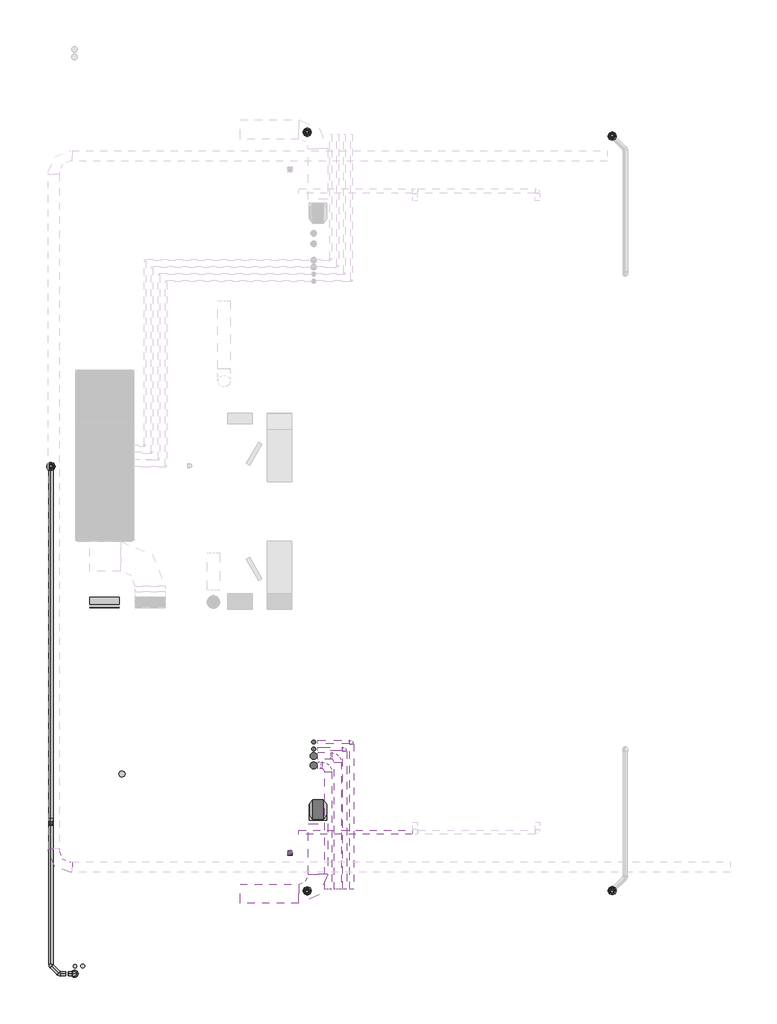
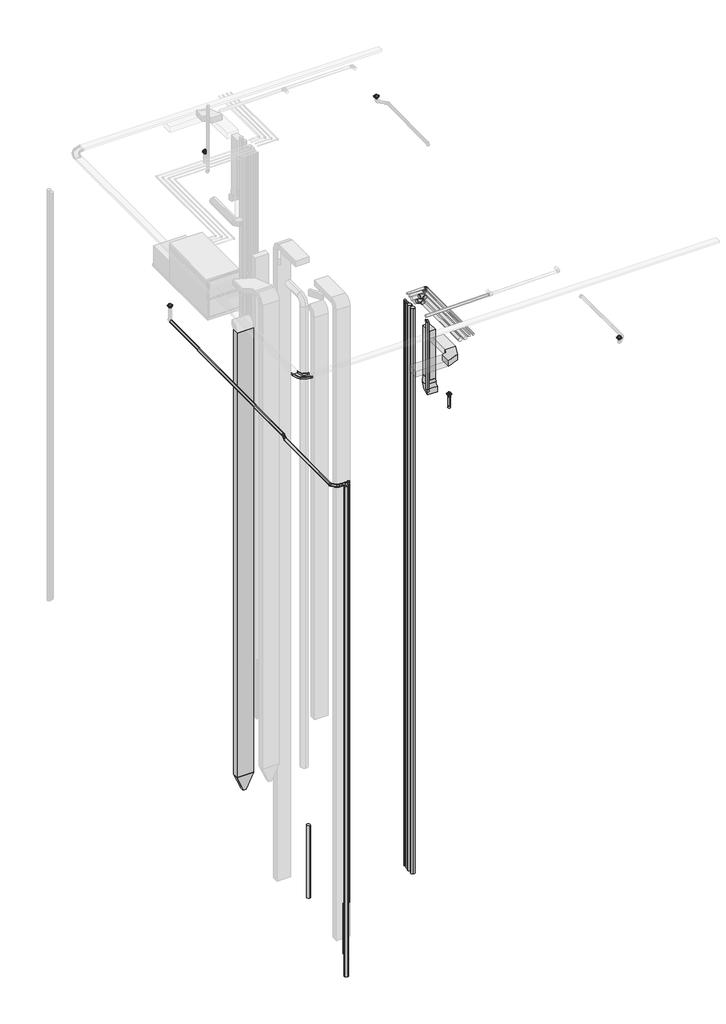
# One storey, part 1 of 3: 25 pipe segments, 14 pipe fittings, 5 duct segments, 5 flow terminals, 4 duct fittings, 1 cable carrier fitting.
"""IFC4 building model written with IfcOpenShell, lengths in millimetres."""

from ifc_helpers import new_model, si_unit, point, frame, frame_2d, origin, place, context, project, spatial, polyline, circle_curve, trimmed, segment, composite_curve, outline, extrude, transform, mapped, element, save
from ifc_brep_helpers import plane_surface, cylinder_surface, advanced_brep
from components import m_codo_horizontal_de_canal_el_5b0e7b07, duct_fitting_474c0b11, duct_fitting_ae5bc20a, m_codo_rectangular_radio_ext_1_w_5d3c8198, m_codo_rectangular_radio_ext_1_w_5d442bab, flow_terminal_39898e6f, flow_terminal_561f22d3, pipe_fitting_4aa6ec84, pipe_fitting_8e92d537, pipe_fitting_b994c117, pipe_fitting_1b8f7a22, pipe_fitting_ed13619d, pipe_fitting_5f63dbb8, pipe_fitting_71e73916, pipe_fitting_90c71d7b, pipe_fitting_3b77712d, pipe_fitting_2358b14d, pipe_fitting_de21bee5

model = new_model("IFC4")

# Units and contexts
model_context = context("Model", 3, world=origin())
ifc_project = project(units=[si_unit("LENGTHUNIT", "METRE", prefix="MILLI")], contexts=[model_context])

# Site, building, storey
site = spatial("IfcSite", under=ifc_project)
building = spatial("IfcBuilding", under=site)
storey = spatial("IfcBuildingStorey", under=building, Name="Nivell 07 P07_PP", Elevation=33660.0)

# Cable carrier fitting
placement = place(None, origin())
m_codo_horizontal_de_canal_el_shape = m_codo_horizontal_de_canal_el_5b0e7b07(model_context)
element("IfcCableCarrierFitting", 1, ObjectType="M_Codo horizontal de canal : SF", at=placement, inside=storey, context=model_context, shape_type="MappedRepresentation", body=[
    mapped(m_codo_horizontal_de_canal_el_shape, transform((6393.9309106, -14645.0574459, 37010.0), x_axis=(0.0, -1.0, 0.0), y_axis=(1.0, 0.0, 0.0), z_axis=(0.0, 0.0, 1.0))),
])

# Duct fittings
duct_fitting_shape = duct_fitting_474c0b11(model_context)
element("IfcDuctFitting", 2, ObjectType="M_Transición rectangular - Ángulo : EXT_45 graus", at=placement, inside=storey, context=model_context, shape_type="MappedRepresentation", body=[
    mapped(duct_fitting_shape, transform((13940.4053207, -13001.757421, 33511.7766953), x_axis=(0.0, 0.0, -1.0), y_axis=(0.0, 1.0, 0.0), z_axis=(1.0, 0.0, 0.0))),
])
duct_fitting_2_shape = duct_fitting_ae5bc20a(model_context)
element("IfcDuctFitting", 3, ObjectType="M_Transición rectangular - Ángulo : APT_45 graus", at=placement, inside=storey, context=model_context, shape_type="MappedRepresentation", body=[
    mapped(duct_fitting_2_shape, transform((7843.1770275, -7084.7057708, 9718.0252532), x_axis=(0.0, 0.0, 1.0), y_axis=(0.0, -1.0, 0.0), z_axis=(1.0, 0.0, 0.0))),
])
m_codo_rectangular_radio_ext_1_w_shape = m_codo_rectangular_radio_ext_1_w_5d3c8198(model_context)
element("IfcDuctFitting", 4, ObjectType="M_Codo rectangular - Radio : EXT_1 W", at=placement, inside=storey, context=model_context, shape_type="MappedRepresentation", body=[
    mapped(m_codo_rectangular_radio_ext_1_w_shape, transform((13940.4053207, -13001.757421, 32910.0), x_axis=(0.0, 0.0, -1.0), y_axis=(0.0, -1.0, 0.0), z_axis=(-1.0, 0.0, 0.0))),
])
m_codo_rectangular_radio_ext_1_w_2_shape = m_codo_rectangular_radio_ext_1_w_5d442bab(model_context)
element("IfcDuctFitting", 5, ObjectType="M_Codo rectangular - Radio : EXT_1 W", at=placement, inside=storey, context=model_context, shape_type="MappedRepresentation", body=[
    mapped(m_codo_rectangular_radio_ext_1_w_2_shape, transform((13940.4053207, -15404.4001617, 36010.0), x_axis=(0.0, -1.0, 0.0), y_axis=(1.0, 0.0, 0.0), z_axis=(0.0, 0.0, 1.0))),
])

# Duct segments
element("IfcDuctSegment", 6, ObjectType="APT_Planxa galvanitzada", at=placement, inside=storey, context=model_context, shape_type="SweptSolid", body=[
    extrude(outline(polyline([(-425.0, 300.6939094), (-425.0, 600.6939094), (425.0, 600.6939094), (425.0, 300.6939094), (-425.0, 300.6939094)])), frame((7843.1770275, -7535.3996802, 10563.000166), z_axis=(-1.1309244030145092e-06, 3.6841681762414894e-07, 0.9999999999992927), x_axis=(0.9999999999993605, 0.0, 1.1309244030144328e-06)), (0.0, 0.0, 1.0), 24060.0),
])
element("IfcDuctSegment", 7, ObjectType="EXT_Acer Galvanitzat - Rígid", at=placement, inside=storey, context=model_context, shape_type="SweptSolid", body=[
    extrude(outline(composite_curve([segment(trimmed(circle_curve(frame_2d((8341.1206995, -11984.7059364)), 87.5), [point((8341.1206995, -11897.2059364))], [point((8428.6206995, -11984.7059364))], False, "CARTESIAN"), True, "CONTINUOUS"), segment(trimmed(circle_curve(frame_2d((8341.1206995, -11984.7059364)), 87.5), [point((8428.6206995, -11984.7059364))], [point((8341.1206995, -12072.2059364))], False, "CARTESIAN"), True, "CONTINUOUS"), segment(trimmed(circle_curve(frame_2d((8341.1206995, -11984.7059364)), 87.5), [point((8341.1206995, -12072.2059364))], [point((8253.6206995, -11984.7059364))], False, "CARTESIAN"), True, "CONTINUOUS"), segment(trimmed(circle_curve(frame_2d((8341.1206995, -11984.7059364)), 87.5), [point((8253.6206995, -11984.7059364))], [point((8341.1206995, -11897.2059364))], False, "CARTESIAN"), True, "CONTINUOUS")], self_intersect=False)), frame((0.0, 0.0, 6637.5), z_axis=(0.0, 0.0, 1.0), x_axis=(1.0, 0.0, 0.0)), (0.0, 0.0, 1.0), 3930.0),
])
element("IfcDuctSegment", 8, ObjectType="EXT_Planxa galvanitzada", at=placement, inside=storey, context=model_context, shape_type="SweptSolid", body=[
    extrude(outline(polyline([(13790.4053207, -13276.757421), (13790.4053207, -12726.757421), (14090.4053207, -12726.757421), (14090.4053207, -13276.757421), (13790.4053207, -13276.757421)])), frame((0.0, 0.0, 33511.7766953), z_axis=(0.0, 0.0, 1.0), x_axis=(1.0, 0.0, 0.0)), (0.0, 0.0, 1.0), 2648.2233047),
])
element("IfcDuctSegment", 9, ObjectType="EXT_Planxa galvanitzada", at=placement, inside=storey, context=model_context, shape_type="SweptSolid", body=[
    extrude(outline(polyline([(13665.4053207, -13404.4001617), (14215.4053207, -13404.4001617), (14215.4053207, -14854.4001617), (13665.4053207, -14854.4001617), (13665.4053207, -13404.4001617)])), frame((0.0, 0.0, 35860.0), z_axis=(0.0, 0.0, 1.0), x_axis=(1.0, 0.0, 0.0)), (0.0, 0.0, 1.0), 300.0),
])
element("IfcDuctSegment", 10, ObjectType="EXT_Planxa galvanitzada", at=placement, inside=storey, context=model_context, shape_type="SweptSolid", body=[
    extrude(outline(polyline([(13390.4053207, -15129.4001617), (13390.4053207, -15679.4001617), (11715.0788372, -15679.4001617), (11715.0788372, -15129.4001617), (13390.4053207, -15129.4001617)])), frame((0.0, 0.0, 35860.0), z_axis=(0.0, 0.0, 1.0), x_axis=(1.0, 0.0, 0.0)), (0.0, 0.0, 1.0), 300.0),
])

# Flow terminals
flow_terminal_shape = flow_terminal_39898e6f(model_context)
element("IfcFlowTerminal", 11, ObjectType="ARC_PF_desaigua coberta : Diámetro salida 70mm", at=placement, inside=storey, context=model_context, shape_type="MappedRepresentation", body=[
    mapped(flow_terminal_shape, transform((22335.1113697, 6224.9840671, 33958.0), x_axis=(1.0, 0.0, 0.0), y_axis=(0.0, 1.0, 0.0), z_axis=(0.0, 0.0, 1.0))),
])
element("IfcFlowTerminal", 12, ObjectType="ARC_PF_desaigua coberta : Diámetro salida 70mm", at=placement, inside=storey, context=model_context, shape_type="MappedRepresentation", body=[
    mapped(flow_terminal_shape, transform((6311.3052356, -3209.6948306, 33958.0), x_axis=(1.0, 0.0, 0.0), y_axis=(0.0, 1.0, 0.0), z_axis=(0.0, 0.0, 1.0))),
])
element("IfcFlowTerminal", 13, ObjectType="ARC_PF_desaigua coberta : Diámetro salida 70mm", at=placement, inside=storey, context=model_context, shape_type="MappedRepresentation", body=[
    mapped(flow_terminal_shape, transform((13625.7760967, 6334.0550098, 33958.0), x_axis=(1.0, 0.0, 0.0), y_axis=(0.0, 1.0, 0.0), z_axis=(0.0, 0.0, 1.0))),
])
flow_terminal_2_shape = flow_terminal_561f22d3(model_context)
element("IfcFlowTerminal", 14, ObjectType="ARC_PF_desaigua coberta : Diámetro salida 70mm", at=placement, inside=storey, context=model_context, shape_type="MappedRepresentation", body=[
    mapped(flow_terminal_2_shape, transform((22333.2077868, -15317.2686386, 33958.0), x_axis=(1.0, 0.0, 0.0), y_axis=(0.0, 1.0, 0.0), z_axis=(0.0, 0.0, 1.0))),
])
element("IfcFlowTerminal", 15, ObjectType="ARC_PF_desaigua coberta : Diámetro salida 70mm", at=placement, inside=storey, context=model_context, shape_type="MappedRepresentation", body=[
    mapped(flow_terminal_2_shape, transform((13626.9908986, -15325.0719365, 33958.0), x_axis=(1.0, 0.0, 0.0), y_axis=(0.0, 1.0, 0.0), z_axis=(0.0, 0.0, 1.0))),
])

# Pipe fittings
pipe_fitting_shape = pipe_fitting_4aa6ec84(model_context)
element("IfcPipeFitting", 16, ObjectType="M_Transición - Genérica : Estándar", at=placement, inside=storey, context=model_context, shape_type="MappedRepresentation", body=[
    mapped(pipe_fitting_shape, transform((13626.9908986, -15325.0719365, 33958.0), x_axis=(0.0, 0.0, -1.0), y_axis=(1.0, 0.0, 0.0), z_axis=(0.0, -1.0, 0.0))),
])
pipe_fitting_2_shape = pipe_fitting_8e92d537(model_context)
element("IfcPipeFitting", 17, ObjectType="M_Codo - Genérico : Estándar", at=placement, inside=storey, context=model_context, shape_type="MappedRepresentation", body=[
    mapped(pipe_fitting_2_shape, transform((13626.9908986, -15325.0719365, 33391.2417936), x_axis=(0.0, 0.0, -1.0), y_axis=(-0.7069328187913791, -0.7072807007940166, 0.0), z_axis=(-0.7072807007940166, 0.7069328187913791, 0.0))),
])
element("IfcPipeFitting", 18, ObjectType="M_Codo - Genérico : Estándar", at=placement, inside=storey, context=model_context, shape_type="MappedRepresentation", body=[
    mapped(pipe_fitting_2_shape, transform((6986.7616298, -17691.0727446, 32990.2627563), x_axis=(0.9999500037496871, 0.0, -0.009999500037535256), y_axis=(-0.009999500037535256, 0.0, -0.9999500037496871), z_axis=(0.0, 1.0, 0.0))),
])
pipe_fitting_3_shape = pipe_fitting_b994c117(model_context)
element("IfcPipeFitting", 19, ObjectType="M_Codo - Genérico : Estándar", at=placement, inside=storey, context=model_context, shape_type="MappedRepresentation", body=[
    mapped(pipe_fitting_3_shape, transform((6552.8394718, -17691.0848144, 32995.8090077), x_axis=(0.7070714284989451, -0.7070714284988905, -0.00999950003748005), y_axis=(0.707071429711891, 0.7071300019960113, -0.004141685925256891), z_axis=(0.009999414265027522, -0.004141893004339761, 0.9999414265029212))),
])
pipe_fitting_4_shape = pipe_fitting_1b8f7a22(model_context)
element("IfcPipeFitting", 20, ObjectType="M_Codo - Genérico : Estándar", at=placement, inside=storey, context=model_context, shape_type="MappedRepresentation", body=[
    mapped(pipe_fitting_4_shape, transform((13138.8500573, -14229.6699177, 33770.2949425), x_axis=(0.0, 0.0, -1.0), y_axis=(0.0, 1.0, 0.0), z_axis=(1.0, 0.0, 0.0))),
])
pipe_fitting_5_shape = pipe_fitting_ed13619d(model_context)
element("IfcPipeFitting", 21, ObjectType="M_Codo - Genérico : Estándar", at=placement, inside=storey, context=model_context, shape_type="MappedRepresentation", body=[
    mapped(pipe_fitting_5_shape, transform((6311.3196705, -17449.5638, 32999.0175186), x_axis=(1.0136443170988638e-06, -0.9999500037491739, -0.009999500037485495), y_axis=(0.9999914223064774, 4.243048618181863e-05, -0.0041416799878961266), z_axis=(0.004141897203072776, -0.009999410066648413, 0.9999414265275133))),
])
pipe_fitting_6_shape = pipe_fitting_5f63dbb8(model_context)
element("IfcPipeFitting", 22, ObjectType="M_Codo - Genérico : Estándar", at=placement, inside=storey, context=model_context, shape_type="MappedRepresentation", body=[
    mapped(pipe_fitting_6_shape, transform((6311.315581, -13415.3370057, 33039.3597865), x_axis=(-1.0136443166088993e-06, 0.999950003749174, 0.009999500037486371), y_axis=(1.034121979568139e-06, -0.00999950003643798, 0.9999500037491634), z_axis=(0.9999999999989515, 1.023934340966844e-06, -1.0239343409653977e-06))),
])
pipe_fitting_7_shape = pipe_fitting_71e73916(model_context)
element("IfcPipeFitting", 23, ObjectType="M_Codo - Genérico : Estándar", at=placement, inside=storey, context=model_context, shape_type="MappedRepresentation", body=[
    mapped(pipe_fitting_7_shape, transform((6311.3154497, -13285.7671705, 33169.2416195), x_axis=(1.0136443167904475e-06, -0.9999500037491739, -0.009999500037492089), y_axis=(-9.312105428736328e-07, 0.00999950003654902, -0.9999500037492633), z_axis=(0.9999999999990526, 1.0229052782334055e-06, -9.210280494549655e-07))),
])
pipe_fitting_8_shape = pipe_fitting_90c71d7b(model_context)
element("IfcPipeFitting", 24, ObjectType="M_Codo - Genérico : Estándar", at=placement, inside=storey, context=model_context, shape_type="MappedRepresentation", body=[
    mapped(pipe_fitting_8_shape, transform((13138.8500573, -14229.6699177, 37555.5427949), x_axis=(0.0, 0.0, 1.0), y_axis=(-0.9999881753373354, 0.004863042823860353, 0.0), z_axis=(-0.004863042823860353, -0.9999881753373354, 0.0))),
])
pipe_fitting_9_shape = pipe_fitting_3b77712d(model_context)
element("IfcPipeFitting", 25, ObjectType="M_Codo - Genérico : Estándar", at=placement, inside=storey, context=model_context, shape_type="MappedRepresentation", body=[
    mapped(pipe_fitting_9_shape, transform((14899.010018, -11073.2087902, 36805.0), x_axis=(1.0, 0.0, 0.0), y_axis=(0.0, 1.0, 0.0), z_axis=(0.0, 0.0, 1.0))),
])
element("IfcPipeFitting", 26, ObjectType="M_Codo - Genérico : Estándar", at=placement, inside=storey, context=model_context, shape_type="MappedRepresentation", body=[
    mapped(pipe_fitting_9_shape, transform((14699.010018, -11273.2087902, 36805.0), x_axis=(1.0, 0.0, 0.0), y_axis=(0.0, 1.0, 0.0), z_axis=(0.0, 0.0, 1.0))),
])
pipe_fitting_10_shape = pipe_fitting_2358b14d(model_context)
element("IfcPipeFitting", 27, ObjectType="Codo 90º Soldadura a Tope SDR 11 BluePipe : Estándar", at=placement, inside=storey, context=model_context, shape_type="MappedRepresentation", body=[
    mapped(pipe_fitting_10_shape, transform((14229.010018, -11743.2087902, 36760.0), x_axis=(1.0, 0.0, 0.0), y_axis=(0.0, 1.0, 0.0), z_axis=(0.0, 0.0, 1.0))),
])
element("IfcPipeFitting", 28, ObjectType="Codo 90º Soldadura a Tope SDR 11 BluePipe : Estándar", at=placement, inside=storey, context=model_context, shape_type="MappedRepresentation", body=[
    mapped(pipe_fitting_10_shape, transform((14499.010018, -11473.2087902, 36760.0), x_axis=(1.0, 0.0, 0.0), y_axis=(0.0, 1.0, 0.0), z_axis=(0.0, 0.0, 1.0))),
])
pipe_fitting_11_shape = pipe_fitting_de21bee5(model_context)
element("IfcPipeFitting", 29, ObjectType="M_Transición - Genérica : Estándar", at=placement, inside=storey, context=model_context, shape_type="MappedRepresentation", body=[
    mapped(pipe_fitting_11_shape, transform((6986.7616298, -17691.0727446, 32919.5360595), x_axis=(0.0, 0.0, -1.0), y_axis=(-1.0, 0.0, 0.0), z_axis=(0.0, 1.0, 0.0))),
])

# Pipe segments
element("IfcPipeSegment", 30, ObjectType="PVC_Baixant", at=placement, inside=storey, context=model_context, shape_type="SweptSolid", body=[
    extrude(outline(composite_curve([segment(trimmed(circle_curve(frame_2d((13138.8500573, -14229.6699177)), 62.5), [point((13076.3500573, -14229.6699177))], [point((13138.8500573, -14167.1699177))], False, "CARTESIAN"), True, "CONTINUOUS"), segment(trimmed(circle_curve(frame_2d((13138.8500573, -14229.6699177)), 62.5), [point((13138.8500573, -14167.1699177))], [point((13201.3500573, -14229.6699177))], False, "CARTESIAN"), True, "CONTINUOUS"), segment(trimmed(circle_curve(frame_2d((13138.8500573, -14229.6699177)), 62.5), [point((13201.3500573, -14229.6699177))], [point((13138.8500573, -14292.1699177))], False, "CARTESIAN"), True, "CONTINUOUS"), segment(trimmed(circle_curve(frame_2d((13138.8500573, -14229.6699177)), 62.5), [point((13138.8500573, -14292.1699177))], [point((13076.3500573, -14229.6699177))], False, "CARTESIAN"), True, "CONTINUOUS")], self_intersect=False)), frame((0.0, 0.0, 33841.0216393), z_axis=(0.0, 0.0, 1.0), x_axis=(1.0, 0.0, 0.0)), (0.0, 0.0, 1.0), 3643.7944505),
])
element("IfcPipeSegment", 31, ObjectType="PVC_Baixant", at=placement, inside=storey, context=model_context, shape_type="AdvancedBrep", body=[
    advanced_brep(
    [(16631.3826603, -13586.905026, 37364.678108), (16630.7572476, -13649.405026, 37427.1749788), (16631.3826606, -13711.905026, 37364.678108), (16632.0080732, -13649.405026, 37302.1812372), (13393.894366, -13586.9050333, 37332.2802206), (13394.5197789, -13649.4050333, 37269.7833498), (13393.8943663, -13711.9050333, 37332.2802206), (13393.2689533, -13649.4050333, 37394.7770914)],
    [
        (0, 1, circle_curve(frame((16631.3826603, -13649.405026, 37364.678108), z_axis=(0.9999499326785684, 0.0, 0.010006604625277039), x_axis=(0.0, 1.0, 2.2493936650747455e-11)), 62.5)),
        (1, 2, circle_curve(frame((16631.3826604, -13649.405026, 37364.678108), z_axis=(0.9999499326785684, 0.0, 0.010006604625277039), x_axis=(0.0, 1.0, 2.2493936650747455e-11)), 62.5)),
        (2, 3, circle_curve(frame((16631.3826606, -13649.405026, 37364.678108), z_axis=(0.9999499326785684, 0.0, 0.010006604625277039), x_axis=(0.0, 1.0, 2.2493936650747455e-11)), 62.5)),
        (3, 0, circle_curve(frame((16631.3826604, -13649.405026, 37364.678108), z_axis=(0.9999499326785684, 0.0, 0.010006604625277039), x_axis=(0.0, 1.0, 2.2493936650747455e-11)), 62.5)),
        (4, 5, circle_curve(frame((13393.894366, -13649.405026, 37332.2802206), z_axis=(-0.9999499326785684, 0.0, -0.010006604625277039), x_axis=(0.0, 1.0, 2.2493936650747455e-11)), 62.4999927)),
        (5, 6, circle_curve(frame((13393.8943661, -13649.405026, 37332.2802206), z_axis=(-0.9999499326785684, 0.0, -0.010006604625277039), x_axis=(0.0, 1.0, 2.2493936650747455e-11)), 62.5)),
        (6, 7, circle_curve(frame((13393.8943663, -13649.405026, 37332.2802206), z_axis=(-0.9999499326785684, 0.0, -0.010006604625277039), x_axis=(0.0, 1.0, 2.2493936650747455e-11)), 62.5000073)),
        (7, 4, circle_curve(frame((13393.8943661, -13649.405026, 37332.2802206), z_axis=(-0.9999499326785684, 0.0, -0.010006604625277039), x_axis=(0.0, 1.0, 2.2493936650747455e-11)), 62.5)),
        (0, 4),
        (7, 1),
        (6, 2),
        (5, 3),
    ],
    [
        plane_surface(frame((16631.3826604, -13586.905026, 37364.678094), z_axis=(0.9999499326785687, 2.247909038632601e-09, 0.010006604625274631), x_axis=(0.010006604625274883, -2.2463128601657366e-07, -0.9999499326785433))),
        plane_surface(frame((13393.8943661, -13586.9050333, 37332.2802066), z_axis=(-0.9999499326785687, -2.247909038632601e-09, -0.010006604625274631), x_axis=(0.010006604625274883, -2.2463128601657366e-07, -0.9999499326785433))),
        cylinder_surface(frame((16631.3826604, -13649.405026, 37364.678108), z_axis=(0.9999499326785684, 0.0, 0.010006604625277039), x_axis=(0.0, 1.0, 2.2493936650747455e-11)), 62.5),
    ],
    [
        (0, [[1, 2, 3, 4]]),
        (1, [[5, 6, 7, 8]]),
        (2, [[-1, 9, -8, 10]]),
        (2, [[-2, -10, -7, 11]]),
        (2, [[-3, -11, -6, 12]]),
        (2, [[-4, -12, -5, -9]]),
    ],
),
])
element("IfcPipeSegment", 32, ObjectType="PVC_Baixant", at=placement, inside=storey, context=model_context, shape_type="SweptSolid", body=[
    extrude(outline(composite_curve([segment(trimmed(circle_curve(frame_2d((13626.9908986, -15325.0719365)), 62.5), [point((13689.4908986, -15325.0719365))], [point((13626.9908986, -15387.5719365))], False, "CARTESIAN"), True, "CONTINUOUS"), segment(trimmed(circle_curve(frame_2d((13626.9908986, -15325.0719365)), 62.5), [point((13626.9908986, -15387.5719365))], [point((13564.4908986, -15325.0719365))], False, "CARTESIAN"), True, "CONTINUOUS"), segment(trimmed(circle_curve(frame_2d((13626.9908986, -15325.0719365)), 62.5), [point((13564.4908986, -15325.0719365))], [point((13626.9908986, -15262.5719365))], False, "CARTESIAN"), True, "CONTINUOUS"), segment(trimmed(circle_curve(frame_2d((13626.9908986, -15325.0719365)), 62.5), [point((13626.9908986, -15262.5719365))], [point((13689.4908986, -15325.0719365))], False, "CARTESIAN"), True, "CONTINUOUS")], self_intersect=False)), frame((0.0, 0.0, 33461.9684904), z_axis=(0.0, 0.0, 1.0), x_axis=(1.0, 0.0, 0.0)), (0.0, 0.0, 1.0), 463.4877596),
])
element("IfcPipeSegment", 33, ObjectType="PVC_Baixant", at=placement, inside=storey, context=model_context, shape_type="SweptSolid", body=[
    extrude(outline(composite_curve([segment(trimmed(circle_curve(frame_2d((0.0, -62.5)), 62.5), [point((-62.5, -62.5000006))], [point((-7e-07, 0.0))], False, "CARTESIAN"), True, "CONTINUOUS"), segment(trimmed(circle_curve(frame_2d((0.0, -62.5)), 62.5), [point((-7e-07, 0.0))], [point((62.5, -62.4999993))], False, "CARTESIAN"), True, "CONTINUOUS"), segment(trimmed(circle_curve(frame_2d((0.0, -62.5)), 62.5), [point((62.5, -62.4999993))], [point((6e-07, -125.0))], False, "CARTESIAN"), True, "CONTINUOUS"), segment(trimmed(circle_curve(frame_2d((0.0, -62.5)), 62.5), [point((6e-07, -125.0))], [point((-62.5, -62.5000006))], False, "CARTESIAN"), True, "CONTINUOUS")], self_intersect=False)), frame((6311.3154179, -13253.7647773, 33107.0585185), z_axis=(-1.01364431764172e-06, 0.999950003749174, 0.009999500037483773), x_axis=(0.9999999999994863, 1.0135936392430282e-06, 1.013593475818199e-08)), (0.0, 0.0, 1.0), 9967.4096377),
])
element("IfcPipeSegment", 34, ObjectType="PVC_Baixant", at=placement, inside=storey, context=model_context, shape_type="SweptSolid", body=[
    extrude(outline(composite_curve([segment(trimmed(circle_curve(frame_2d((0.0, -62.5)), 62.5), [point((-62.4968756, -63.1249375))], [point((-0.6249376, -0.0031245))], False, "CARTESIAN"), True, "CONTINUOUS"), segment(trimmed(circle_curve(frame_2d((0.0, -62.5)), 62.5), [point((-0.6249376, -0.0031245))], [point((62.4968755, -61.8750625))], False, "CARTESIAN"), True, "CONTINUOUS"), segment(trimmed(circle_curve(frame_2d((0.0, -62.5)), 62.5), [point((62.4968755, -61.8750625))], [point((0.6249374, -124.9968755))], False, "CARTESIAN"), True, "CONTINUOUS"), segment(trimmed(circle_curve(frame_2d((0.0, -62.5)), 62.5), [point((0.6249374, -124.9968755))], [point((-62.4968756, -63.1249375))], False, "CARTESIAN"), True, "CONTINUOUS")], self_intersect=False)), frame((6531.9173263, -17669.2776607, 32933.4040457), z_axis=(-0.7070714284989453, 0.7070714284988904, 0.009999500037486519), x_axis=(0.7071421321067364, 0.7070007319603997, 0.009998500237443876)), (0.0, 0.0, 1.0), 282.3991891),
])
element("IfcPipeSegment", 35, ObjectType="PVC_Baixant", at=placement, inside=storey, context=model_context, shape_type="SweptSolid", body=[
    extrude(outline(composite_curve([segment(trimmed(circle_curve(frame_2d((0.0, -62.5)), 62.5), [point((0.0, -125.0))], [point((-62.5000001, -62.5))], False, "CARTESIAN"), True, "CONTINUOUS"), segment(trimmed(circle_curve(frame_2d((0.0, -62.5)), 62.5), [point((-62.5000001, -62.5))], [point((0.0, 0.0))], False, "CARTESIAN"), True, "CONTINUOUS"), segment(trimmed(circle_curve(frame_2d((0.0, -62.5)), 62.5), [point((0.0, 0.0))], [point((62.5, -62.5))], False, "CARTESIAN"), True, "CONTINUOUS"), segment(trimmed(circle_curve(frame_2d((0.0, -62.5)), 62.5), [point((62.5, -62.5))], [point((0.0, -125.0))], False, "CARTESIAN"), True, "CONTINUOUS")], self_intersect=False)), frame((6916.0384691, -17628.5727446, 32990.9699879), z_axis=(-0.9999500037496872, 0.0, 0.009999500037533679), x_axis=(0.009999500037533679, 0.0, 0.9999500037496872)), (0.0, 0.0, 1.0), 113.1264474),
])
element("IfcPipeSegment", 36, ObjectType="PVC_Baixant", at=placement, inside=storey, context=model_context, shape_type="SweptSolid", body=[
    extrude(outline(composite_curve([segment(trimmed(circle_curve(frame_2d((6986.7616298, -17691.0727446)), 100.0), [point((7086.7616298, -17691.0727446))], [point((6986.7616298, -17791.0727446))], False, "CARTESIAN"), True, "CONTINUOUS"), segment(trimmed(circle_curve(frame_2d((6986.7616298, -17691.0727446)), 100.0), [point((6986.7616298, -17791.0727446))], [point((6886.7616298, -17691.0727446))], False, "CARTESIAN"), True, "CONTINUOUS"), segment(trimmed(circle_curve(frame_2d((6986.7616298, -17691.0727446)), 100.0), [point((6886.7616298, -17691.0727446))], [point((6986.7616298, -17591.0727446))], False, "CARTESIAN"), True, "CONTINUOUS"), segment(trimmed(circle_curve(frame_2d((6986.7616298, -17691.0727446)), 100.0), [point((6986.7616298, -17591.0727446))], [point((7086.7616298, -17691.0727446))], False, "CARTESIAN"), True, "CONTINUOUS")], self_intersect=False)), frame((0.0, 0.0, 6330.0), z_axis=(0.0, 0.0, 1.0), x_axis=(1.0, 0.0, 0.0)), (0.0, 0.0, 1.0), 26537.9423095),
])
element("IfcPipeSegment", 37, ObjectType="PVC_Baixant", at=placement, inside=storey, context=model_context, shape_type="SweptSolid", body=[
    extrude(outline(composite_curve([segment(trimmed(circle_curve(frame_2d((0.0, 62.5000001)), 62.5), [point((62.5, 62.5000007))], [point((6e-07, 0.0))], False, "CARTESIAN"), True, "CONTINUOUS"), segment(trimmed(circle_curve(frame_2d((0.0, 62.5000001)), 62.5), [point((6e-07, 0.0))], [point((-62.5, 62.4999994))], False, "CARTESIAN"), True, "CONTINUOUS"), segment(trimmed(circle_curve(frame_2d((0.0, 62.5000001)), 62.5), [point((-62.5, 62.4999994))], [point((-6e-07, 125.0))], False, "CARTESIAN"), True, "CONTINUOUS"), segment(trimmed(circle_curve(frame_2d((0.0, 62.5000001)), 62.5), [point((-6e-07, 125.0))], [point((62.5, 62.5000007))], False, "CARTESIAN"), True, "CONTINUOUS")], self_intersect=False)), frame((6311.3196405, -17420.6016424, 33061.8102651), z_axis=(-1.01364431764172e-06, 0.999950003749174, 0.009999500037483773), x_axis=(0.9999999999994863, 1.0135936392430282e-06, 1.013593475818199e-08)), (0.0, 0.0, 1.0), 3975.6671094),
])
element("IfcPipeSegment", 38, ObjectType="PVC_Baixant", at=placement, inside=storey, context=model_context, shape_type="SweptSolid", body=[
    extrude(outline(composite_curve([segment(trimmed(circle_curve(frame_2d((0.0, -62.5)), 62.5), [point((-62.5, -62.5))], [point((0.0, 0.0))], False, "CARTESIAN"), True, "CONTINUOUS"), segment(trimmed(circle_curve(frame_2d((0.0, -62.5)), 62.5), [point((0.0, 0.0))], [point((62.5, -62.5))], False, "CARTESIAN"), True, "CONTINUOUS"), segment(trimmed(circle_curve(frame_2d((0.0, -62.5)), 62.5), [point((62.5, -62.5))], [point((0.0, -125.0000001))], False, "CARTESIAN"), True, "CONTINUOUS"), segment(trimmed(circle_curve(frame_2d((0.0, -62.5)), 62.5), [point((0.0, -125.0000001))], [point((-62.5, -62.5))], False, "CARTESIAN"), True, "CONTINUOUS")], self_intersect=False)), frame((6311.315581, -13350.5145574, 33015.7938871), z_axis=(0.0, 0.7071067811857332, 0.7071067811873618), x_axis=(1.0, 0.0, 0.0)), (0.0, 0.0, 1.0), 67.614433),
])
element("IfcPipeSegment", 39, ObjectType="PVC_Baixant", at=placement, inside=storey, context=model_context, shape_type="SweptSolid", body=[
    extrude(outline(composite_curve([segment(trimmed(circle_curve(frame_2d((0.0, -62.5)), 62.5), [point((-62.5, -62.5))], [point((0.0, 0.0))], False, "CARTESIAN"), True, "CONTINUOUS"), segment(trimmed(circle_curve(frame_2d((0.0, -62.5)), 62.5), [point((0.0, 0.0))], [point((62.5, -62.5))], False, "CARTESIAN"), True, "CONTINUOUS"), segment(trimmed(circle_curve(frame_2d((0.0, -62.5)), 62.5), [point((62.5, -62.5))], [point((0.0, -124.9999999))], False, "CARTESIAN"), True, "CONTINUOUS"), segment(trimmed(circle_curve(frame_2d((0.0, -62.5)), 62.5), [point((0.0, -124.9999999))], [point((-62.5, -62.5))], False, "CARTESIAN"), True, "CONTINUOUS")], self_intersect=False)), frame((6311.3154497, -13301.6986864, 33062.5992643), z_axis=(0.0, 0.7071067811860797, 0.7071067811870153), x_axis=(1.0, 0.0, 0.0)), (0.0, 0.0, 1.0), 55.336826),
])
element("IfcPipeSegment", 40, ObjectType="PVC_Baixant", at=placement, inside=storey, context=model_context, shape_type="SweptSolid", body=[
    extrude(outline(composite_curve([segment(trimmed(circle_curve(frame_2d((0.0, -62.5)), 62.5), [point((0.0, -125.0))], [point((-62.5000001, -62.5))], False, "CARTESIAN"), True, "CONTINUOUS"), segment(trimmed(circle_curve(frame_2d((0.0, -62.5)), 62.5), [point((-62.5000001, -62.5))], [point((0.0, 0.0))], False, "CARTESIAN"), True, "CONTINUOUS"), segment(trimmed(circle_curve(frame_2d((0.0, -62.5)), 62.5), [point((0.0, 0.0))], [point((62.5, -62.5))], False, "CARTESIAN"), True, "CONTINUOUS"), segment(trimmed(circle_curve(frame_2d((0.0, -62.5)), 62.5), [point((62.5, -62.5))], [point((0.0, -125.0))], False, "CARTESIAN"), True, "CONTINUOUS")], self_intersect=False)), frame((6737.8455009, -17628.5848144, 32993.9589474), z_axis=(-0.9999500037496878, 0.0, 0.009999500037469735), x_axis=(0.009999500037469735, 0.0, 0.9999500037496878)), (0.0, 0.0, 1.0), 155.426631),
])
element("IfcPipeSegment", 41, ObjectType="PPR_CLI_Aquatherm Blue Pipe", at=placement, inside=storey, context=model_context, shape_type="SweptSolid", body=[
    extrude(outline(composite_curve([segment(trimmed(circle_curve(frame_2d((-11743.2087902, 36760.0)), 100.0), [point((-11643.2087902, 36760.0))], [point((-11743.2087902, 36660.0))], False, "CARTESIAN"), True, "CONTINUOUS"), segment(trimmed(circle_curve(frame_2d((-11743.2087902, 36760.0)), 100.0), [point((-11743.2087902, 36660.0))], [point((-11843.2087902, 36760.0))], False, "CARTESIAN"), True, "CONTINUOUS"), segment(trimmed(circle_curve(frame_2d((-11743.2087902, 36760.0)), 100.0), [point((-11843.2087902, 36760.0))], [point((-11743.2087902, 36860.0))], False, "CARTESIAN"), True, "CONTINUOUS"), segment(trimmed(circle_curve(frame_2d((-11743.2087902, 36760.0)), 100.0), [point((-11743.2087902, 36860.0))], [point((-11643.2087902, 36760.0))], False, "CARTESIAN"), True, "CONTINUOUS")], self_intersect=False)), frame((13929.010018, 0.0, 0.0), z_axis=(1.0, 0.0, 0.0), x_axis=(0.0, 1.0, 0.0)), (0.0, 0.0, 1.0), 125.0),
])
element("IfcPipeSegment", 42, ObjectType="PPR_CLI_Aquatherm Blue Pipe", at=placement, inside=storey, context=model_context, shape_type="SweptSolid", body=[
    extrude(outline(composite_curve([segment(trimmed(circle_curve(frame_2d((36760.0, 14229.010018)), 100.0), [point((36760.0, 14129.010018))], [point((36660.0, 14229.010018))], False, "CARTESIAN"), True, "CONTINUOUS"), segment(trimmed(circle_curve(frame_2d((36760.0, 14229.010018)), 100.0), [point((36660.0, 14229.010018))], [point((36760.0, 14329.010018))], False, "CARTESIAN"), True, "CONTINUOUS"), segment(trimmed(circle_curve(frame_2d((36760.0, 14229.010018)), 100.0), [point((36760.0, 14329.010018))], [point((36860.0, 14229.010018))], False, "CARTESIAN"), True, "CONTINUOUS"), segment(trimmed(circle_curve(frame_2d((36760.0, 14229.010018)), 100.0), [point((36860.0, 14229.010018))], [point((36760.0, 14129.010018))], False, "CARTESIAN"), True, "CONTINUOUS")], self_intersect=False)), frame((0.0, -15273.2087902, 0.0), z_axis=(0.0, 1.0, 0.0), x_axis=(0.0, 0.0, 1.0)), (0.0, 0.0, 1.0), 3355.0),
])
element("IfcPipeSegment", 43, ObjectType="PPR_CLI_Aquatherm Blue Pipe", at=placement, inside=storey, context=model_context, shape_type="SweptSolid", body=[
    extrude(outline(composite_curve([segment(trimmed(circle_curve(frame_2d((36760.0, 14499.010018)), 100.0), [point((36760.0, 14399.010018))], [point((36660.0, 14499.010018))], False, "CARTESIAN"), True, "CONTINUOUS"), segment(trimmed(circle_curve(frame_2d((36760.0, 14499.010018)), 100.0), [point((36660.0, 14499.010018))], [point((36760.0, 14599.010018))], False, "CARTESIAN"), True, "CONTINUOUS"), segment(trimmed(circle_curve(frame_2d((36760.0, 14499.010018)), 100.0), [point((36760.0, 14599.010018))], [point((36860.0, 14499.010018))], False, "CARTESIAN"), True, "CONTINUOUS"), segment(trimmed(circle_curve(frame_2d((36760.0, 14499.010018)), 100.0), [point((36860.0, 14499.010018))], [point((36760.0, 14399.010018))], False, "CARTESIAN"), True, "CONTINUOUS")], self_intersect=False)), frame((0.0, -15273.2087902, 0.0), z_axis=(0.0, 1.0, 0.0), x_axis=(0.0, 0.0, 1.0)), (0.0, 0.0, 1.0), 3625.0),
])
element("IfcPipeSegment", 44, ObjectType="PPR_CLI_Aquatherm Blue Pipe", at=placement, inside=storey, context=model_context, shape_type="SweptSolid", body=[
    extrude(outline(composite_curve([segment(trimmed(circle_curve(frame_2d((36805.0, 14699.010018)), 55.0), [point((36805.0, 14644.010018))], [point((36750.0, 14699.010018))], False, "CARTESIAN"), True, "CONTINUOUS"), segment(trimmed(circle_curve(frame_2d((36805.0, 14699.010018)), 55.0), [point((36750.0, 14699.010018))], [point((36805.0, 14754.010018))], False, "CARTESIAN"), True, "CONTINUOUS"), segment(trimmed(circle_curve(frame_2d((36805.0, 14699.010018)), 55.0), [point((36805.0, 14754.010018))], [point((36860.0, 14699.010018))], False, "CARTESIAN"), True, "CONTINUOUS"), segment(trimmed(circle_curve(frame_2d((36805.0, 14699.010018)), 55.0), [point((36860.0, 14699.010018))], [point((36805.0, 14644.010018))], False, "CARTESIAN"), True, "CONTINUOUS")], self_intersect=False)), frame((0.0, -15273.2087902, 0.0), z_axis=(0.0, 1.0, 0.0), x_axis=(0.0, 0.0, 1.0)), (0.0, 0.0, 1.0), 3937.0625),
])
element("IfcPipeSegment", 45, ObjectType="PPR_CLI_Aquatherm Blue Pipe", at=placement, inside=storey, context=model_context, shape_type="SweptSolid", body=[
    extrude(outline(composite_curve([segment(trimmed(circle_curve(frame_2d((36805.0, 14899.010018)), 55.0), [point((36805.0, 14844.010018))], [point((36750.0, 14899.010018))], False, "CARTESIAN"), True, "CONTINUOUS"), segment(trimmed(circle_curve(frame_2d((36805.0, 14899.010018)), 55.0), [point((36750.0, 14899.010018))], [point((36805.0, 14954.010018))], False, "CARTESIAN"), True, "CONTINUOUS"), segment(trimmed(circle_curve(frame_2d((36805.0, 14899.010018)), 55.0), [point((36805.0, 14954.010018))], [point((36860.0, 14899.010018))], False, "CARTESIAN"), True, "CONTINUOUS"), segment(trimmed(circle_curve(frame_2d((36805.0, 14899.010018)), 55.0), [point((36860.0, 14899.010018))], [point((36805.0, 14844.010018))], False, "CARTESIAN"), True, "CONTINUOUS")], self_intersect=False)), frame((0.0, -15273.2087902, 0.0), z_axis=(0.0, 1.0, 0.0), x_axis=(0.0, 0.0, 1.0)), (0.0, 0.0, 1.0), 4137.0625),
])
element("IfcPipeSegment", 46, ObjectType="PPR_CLI_Aquatherm Blue Pipe", at=placement, inside=storey, context=model_context, shape_type="SweptSolid", body=[
    extrude(outline(composite_curve([segment(trimmed(circle_curve(frame_2d((-11473.2087902, 36760.0)), 100.0), [point((-11373.2087902, 36760.0))], [point((-11473.2087902, 36660.0))], False, "CARTESIAN"), True, "CONTINUOUS"), segment(trimmed(circle_curve(frame_2d((-11473.2087902, 36760.0)), 100.0), [point((-11473.2087902, 36660.0))], [point((-11573.2087902, 36760.0))], False, "CARTESIAN"), True, "CONTINUOUS"), segment(trimmed(circle_curve(frame_2d((-11473.2087902, 36760.0)), 100.0), [point((-11573.2087902, 36760.0))], [point((-11473.2087902, 36860.0))], False, "CARTESIAN"), True, "CONTINUOUS"), segment(trimmed(circle_curve(frame_2d((-11473.2087902, 36760.0)), 100.0), [point((-11473.2087902, 36860.0))], [point((-11373.2087902, 36760.0))], False, "CARTESIAN"), True, "CONTINUOUS")], self_intersect=False)), frame((13929.010018, 0.0, 0.0), z_axis=(1.0, 0.0, 0.0), x_axis=(0.0, 1.0, 0.0)), (0.0, 0.0, 1.0), 395.0),
])
element("IfcPipeSegment", 47, ObjectType="PPR_CLI_Aquatherm Blue Pipe", at=placement, inside=storey, context=model_context, shape_type="SweptSolid", body=[
    extrude(outline(composite_curve([segment(trimmed(circle_curve(frame_2d((-11273.2087902, 36805.0)), 55.0), [point((-11218.2087902, 36805.0))], [point((-11273.2087902, 36750.0))], False, "CARTESIAN"), True, "CONTINUOUS"), segment(trimmed(circle_curve(frame_2d((-11273.2087902, 36805.0)), 55.0), [point((-11273.2087902, 36750.0))], [point((-11328.2087902, 36805.0))], False, "CARTESIAN"), True, "CONTINUOUS"), segment(trimmed(circle_curve(frame_2d((-11273.2087902, 36805.0)), 55.0), [point((-11328.2087902, 36805.0))], [point((-11273.2087902, 36860.0))], False, "CARTESIAN"), True, "CONTINUOUS"), segment(trimmed(circle_curve(frame_2d((-11273.2087902, 36805.0)), 55.0), [point((-11273.2087902, 36860.0))], [point((-11218.2087902, 36805.0))], False, "CARTESIAN"), True, "CONTINUOUS")], self_intersect=False)), frame((13929.010018, 0.0, 0.0), z_axis=(1.0, 0.0, 0.0), x_axis=(0.0, 1.0, 0.0)), (0.0, 0.0, 1.0), 707.0625),
])
element("IfcPipeSegment", 48, ObjectType="PPR_CLI_Aquatherm Blue Pipe", at=placement, inside=storey, context=model_context, shape_type="SweptSolid", body=[
    extrude(outline(composite_curve([segment(trimmed(circle_curve(frame_2d((-11073.2087902, 36805.0)), 55.0), [point((-11018.2087902, 36805.0))], [point((-11073.2087902, 36750.0))], False, "CARTESIAN"), True, "CONTINUOUS"), segment(trimmed(circle_curve(frame_2d((-11073.2087902, 36805.0)), 55.0), [point((-11073.2087902, 36750.0))], [point((-11128.2087902, 36805.0))], False, "CARTESIAN"), True, "CONTINUOUS"), segment(trimmed(circle_curve(frame_2d((-11073.2087902, 36805.0)), 55.0), [point((-11128.2087902, 36805.0))], [point((-11073.2087902, 36860.0))], False, "CARTESIAN"), True, "CONTINUOUS"), segment(trimmed(circle_curve(frame_2d((-11073.2087902, 36805.0)), 55.0), [point((-11073.2087902, 36860.0))], [point((-11018.2087902, 36805.0))], False, "CARTESIAN"), True, "CONTINUOUS")], self_intersect=False)), frame((13929.010018, 0.0, 0.0), z_axis=(1.0, 0.0, 0.0), x_axis=(0.0, 1.0, 0.0)), (0.0, 0.0, 1.0), 907.0625),
])
element("IfcPipeSegment", 49, ObjectType="PPR_CLI_Aquatherm Blue Pipe", at=placement, inside=storey, context=model_context, shape_type="SweptSolid", body=[
    extrude(outline(composite_curve([segment(trimmed(circle_curve(frame_2d((13814.010018, -11743.2087902)), 100.0), [point((13914.010018, -11743.2087902))], [point((13814.010018, -11843.2087902))], False, "CARTESIAN"), True, "CONTINUOUS"), segment(trimmed(circle_curve(frame_2d((13814.010018, -11743.2087902)), 100.0), [point((13814.010018, -11843.2087902))], [point((13714.010018, -11743.2087902))], False, "CARTESIAN"), True, "CONTINUOUS"), segment(trimmed(circle_curve(frame_2d((13814.010018, -11743.2087902)), 100.0), [point((13714.010018, -11743.2087902))], [point((13814.010018, -11643.2087902))], False, "CARTESIAN"), True, "CONTINUOUS"), segment(trimmed(circle_curve(frame_2d((13814.010018, -11743.2087902)), 100.0), [point((13814.010018, -11643.2087902))], [point((13914.010018, -11743.2087902))], False, "CARTESIAN"), True, "CONTINUOUS")], self_intersect=False)), frame((0.0, 0.0, 5909.9996519), z_axis=(0.0, 0.0, 1.0), x_axis=(1.0, 0.0, 0.0)), (0.0, 0.0, 1.0), 30590.0003481),
])
element("IfcPipeSegment", 50, ObjectType="PPR_CLI_Aquatherm Blue Pipe", at=placement, inside=storey, context=model_context, shape_type="SweptSolid", body=[
    extrude(outline(composite_curve([segment(trimmed(circle_curve(frame_2d((13814.010018, -11473.2087902)), 100.0), [point((13914.010018, -11473.2087902))], [point((13814.010018, -11573.2087902))], False, "CARTESIAN"), True, "CONTINUOUS"), segment(trimmed(circle_curve(frame_2d((13814.010018, -11473.2087902)), 100.0), [point((13814.010018, -11573.2087902))], [point((13714.010018, -11473.2087902))], False, "CARTESIAN"), True, "CONTINUOUS"), segment(trimmed(circle_curve(frame_2d((13814.010018, -11473.2087902)), 100.0), [point((13714.010018, -11473.2087902))], [point((13814.010018, -11373.2087902))], False, "CARTESIAN"), True, "CONTINUOUS"), segment(trimmed(circle_curve(frame_2d((13814.010018, -11473.2087902)), 100.0), [point((13814.010018, -11373.2087902))], [point((13914.010018, -11473.2087902))], False, "CARTESIAN"), True, "CONTINUOUS")], self_intersect=False)), frame((0.0, 0.0, 5909.9996518), z_axis=(0.0, 0.0, 1.0), x_axis=(1.0, 0.0, 0.0)), (0.0, 0.0, 1.0), 30590.0003482),
])
element("IfcPipeSegment", 51, ObjectType="PPR_CLI_Aquatherm Blue Pipe", at=placement, inside=storey, context=model_context, shape_type="SweptSolid", body=[
    extrude(outline(composite_curve([segment(trimmed(circle_curve(frame_2d((13814.010018, -11273.2087902)), 55.0), [point((13869.010018, -11273.2087902))], [point((13814.010018, -11328.2087902))], False, "CARTESIAN"), True, "CONTINUOUS"), segment(trimmed(circle_curve(frame_2d((13814.010018, -11273.2087902)), 55.0), [point((13814.010018, -11328.2087902))], [point((13759.010018, -11273.2087902))], False, "CARTESIAN"), True, "CONTINUOUS"), segment(trimmed(circle_curve(frame_2d((13814.010018, -11273.2087902)), 55.0), [point((13759.010018, -11273.2087902))], [point((13814.010018, -11218.2087902))], False, "CARTESIAN"), True, "CONTINUOUS"), segment(trimmed(circle_curve(frame_2d((13814.010018, -11273.2087902)), 55.0), [point((13814.010018, -11218.2087902))], [point((13869.010018, -11273.2087902))], False, "CARTESIAN"), True, "CONTINUOUS")], self_intersect=False)), frame((0.0, 0.0, 5909.9996518), z_axis=(0.0, 0.0, 1.0), x_axis=(1.0, 0.0, 0.0)), (0.0, 0.0, 1.0), 30590.0003482),
])
element("IfcPipeSegment", 52, ObjectType="PPR_CLI_Aquatherm Blue Pipe", at=placement, inside=storey, context=model_context, shape_type="SweptSolid", body=[
    extrude(outline(composite_curve([segment(trimmed(circle_curve(frame_2d((13814.010018, -11073.2087902)), 55.0), [point((13869.010018, -11073.2087902))], [point((13814.010018, -11128.2087902))], False, "CARTESIAN"), True, "CONTINUOUS"), segment(trimmed(circle_curve(frame_2d((13814.010018, -11073.2087902)), 55.0), [point((13814.010018, -11128.2087902))], [point((13759.010018, -11073.2087902))], False, "CARTESIAN"), True, "CONTINUOUS"), segment(trimmed(circle_curve(frame_2d((13814.010018, -11073.2087902)), 55.0), [point((13759.010018, -11073.2087902))], [point((13814.010018, -11018.2087902))], False, "CARTESIAN"), True, "CONTINUOUS"), segment(trimmed(circle_curve(frame_2d((13814.010018, -11073.2087902)), 55.0), [point((13814.010018, -11018.2087902))], [point((13869.010018, -11073.2087902))], False, "CARTESIAN"), True, "CONTINUOUS")], self_intersect=False)), frame((0.0, 0.0, 5909.9996518), z_axis=(0.0, 0.0, 1.0), x_axis=(1.0, 0.0, 0.0)), (0.0, 0.0, 1.0), 30590.0003482),
])
element("IfcPipeSegment", 53, ObjectType="PVC_Baixant", at=placement, inside=storey, context=model_context, shape_type="SweptSolid", body=[
    extrude(outline(composite_curve([segment(trimmed(circle_curve(frame_2d((7001.7616298, -17471.0727446)), 55.0), [point((7056.7616298, -17471.0727446))], [point((7001.7616298, -17526.0727446))], False, "CARTESIAN"), True, "CONTINUOUS"), segment(trimmed(circle_curve(frame_2d((7001.7616298, -17471.0727446)), 55.0), [point((7001.7616298, -17526.0727446))], [point((6946.7616298, -17471.0727446))], False, "CARTESIAN"), True, "CONTINUOUS"), segment(trimmed(circle_curve(frame_2d((7001.7616298, -17471.0727446)), 55.0), [point((6946.7616298, -17471.0727446))], [point((7001.7616298, -17416.0727446))], False, "CARTESIAN"), True, "CONTINUOUS"), segment(trimmed(circle_curve(frame_2d((7001.7616298, -17471.0727446)), 55.0), [point((7001.7616298, -17416.0727446))], [point((7056.7616298, -17471.0727446))], False, "CARTESIAN"), True, "CONTINUOUS")], self_intersect=False)), frame((0.0, 0.0, 7410.0), z_axis=(0.0, 0.0, 1.0), x_axis=(1.0, 0.0, 0.0)), (0.0, 0.0, 1.0), 2698.5860696),
])
element("IfcPipeSegment", 54, ObjectType="PVC_Baixant", at=placement, inside=storey, context=model_context, shape_type="SweptSolid", body=[
    extrude(outline(composite_curve([segment(trimmed(circle_curve(frame_2d((7221.7616298, -17471.0727446)), 55.0), [point((7276.7616298, -17471.0727446))], [point((7221.7616298, -17526.0727446))], False, "CARTESIAN"), True, "CONTINUOUS"), segment(trimmed(circle_curve(frame_2d((7221.7616298, -17471.0727446)), 55.0), [point((7221.7616298, -17526.0727446))], [point((7166.7616298, -17471.0727446))], False, "CARTESIAN"), True, "CONTINUOUS"), segment(trimmed(circle_curve(frame_2d((7221.7616298, -17471.0727446)), 55.0), [point((7166.7616298, -17471.0727446))], [point((7221.7616298, -17416.0727446))], False, "CARTESIAN"), True, "CONTINUOUS"), segment(trimmed(circle_curve(frame_2d((7221.7616298, -17471.0727446)), 55.0), [point((7221.7616298, -17416.0727446))], [point((7276.7616298, -17471.0727446))], False, "CARTESIAN"), True, "CONTINUOUS")], self_intersect=False)), frame((0.0, 0.0, 10108.5860696), z_axis=(0.0, 0.0, 1.0), x_axis=(1.0, 0.0, 0.0)), (0.0, 0.0, 1.0), 22770.1562399),
])

save(model, "model.ifc")
